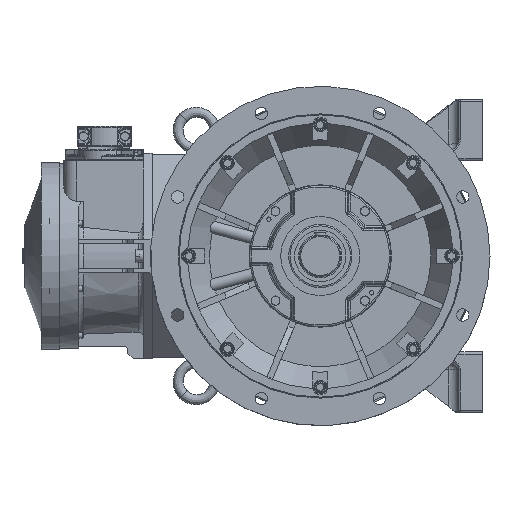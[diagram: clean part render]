
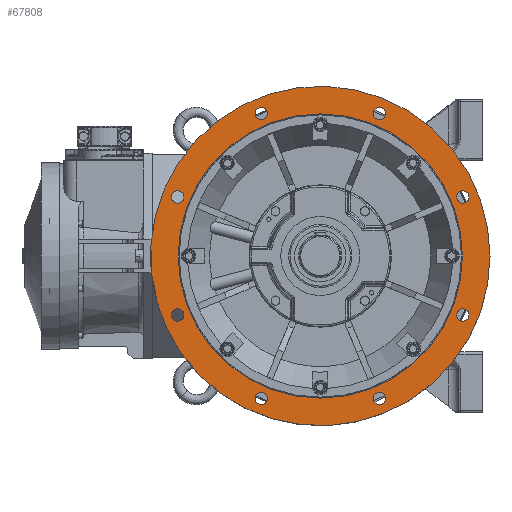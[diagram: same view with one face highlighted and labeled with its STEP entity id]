
A CAD part, left-side view. The second image highlights one B-rep face of the part: STEP entity #67808.
In plain terms, the highlighted planar face has unit normal (-1, 0, 0).
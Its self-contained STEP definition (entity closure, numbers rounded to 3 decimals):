
#20843=ORIENTED_EDGE('',*,*,#28816,.F.);
#20844=ORIENTED_EDGE('',*,*,#28818,.F.);
#20845=ORIENTED_EDGE('',*,*,#28820,.F.);
#20846=ORIENTED_EDGE('',*,*,#28822,.F.);
#20847=ORIENTED_EDGE('',*,*,#28824,.F.);
#20848=ORIENTED_EDGE('',*,*,#28826,.F.);
#20849=ORIENTED_EDGE('',*,*,#28828,.F.);
#20850=ORIENTED_EDGE('',*,*,#28830,.F.);
#20851=ORIENTED_EDGE('',*,*,#28850,.F.);
#20852=ORIENTED_EDGE('',*,*,#28851,.T.);
#28816=EDGE_CURVE('',#33613,#33613,#36247,.T.);
#28818=EDGE_CURVE('',#33615,#33615,#36249,.T.);
#28820=EDGE_CURVE('',#33617,#33617,#36251,.T.);
#28822=EDGE_CURVE('',#33619,#33619,#36253,.T.);
#28824=EDGE_CURVE('',#33621,#33621,#36255,.T.);
#28826=EDGE_CURVE('',#33623,#33623,#36257,.T.);
#28828=EDGE_CURVE('',#33625,#33625,#36259,.T.);
#28830=EDGE_CURVE('',#33627,#33627,#36261,.T.);
#28850=EDGE_CURVE('',#33647,#33647,#36281,.T.);
#28851=EDGE_CURVE('',#33648,#33648,#36282,.F.);
#33613=VERTEX_POINT('',#109469);
#33615=VERTEX_POINT('',#109474);
#33617=VERTEX_POINT('',#109479);
#33619=VERTEX_POINT('',#109484);
#33621=VERTEX_POINT('',#109489);
#33623=VERTEX_POINT('',#109494);
#33625=VERTEX_POINT('',#109499);
#33627=VERTEX_POINT('',#109504);
#33647=VERTEX_POINT('',#109562);
#33648=VERTEX_POINT('',#109564);
#36247=CIRCLE('',#72600,12.);
#36249=CIRCLE('',#72603,12.);
#36251=CIRCLE('',#72606,12.);
#36253=CIRCLE('',#72609,12.);
#36255=CIRCLE('',#72612,12.);
#36257=CIRCLE('',#72615,12.);
#36259=CIRCLE('',#72618,12.);
#36261=CIRCLE('',#72621,12.);
#36281=CIRCLE('',#72659,276.402);
#36282=CIRCLE('',#72660,330.);
#39359=EDGE_LOOP('',(#20843));
#39360=EDGE_LOOP('',(#20844));
#39361=EDGE_LOOP('',(#20845));
#39362=EDGE_LOOP('',(#20846));
#39363=EDGE_LOOP('',(#20847));
#39364=EDGE_LOOP('',(#20848));
#39365=EDGE_LOOP('',(#20849));
#39366=EDGE_LOOP('',(#20850));
#39367=EDGE_LOOP('',(#20851));
#39368=EDGE_LOOP('',(#20852));
#42890=FACE_BOUND('',#39359,.T.);
#42891=FACE_BOUND('',#39360,.T.);
#42892=FACE_BOUND('',#39361,.T.);
#42893=FACE_BOUND('',#39362,.T.);
#42894=FACE_BOUND('',#39363,.T.);
#42895=FACE_BOUND('',#39364,.T.);
#42896=FACE_BOUND('',#39365,.T.);
#42897=FACE_BOUND('',#39366,.T.);
#42898=FACE_BOUND('',#39367,.T.);
#42899=FACE_BOUND('',#39368,.T.);
#44873=PLANE('',#72658);
#67808=ADVANCED_FACE('',(#42890,#42891,#42892,#42893,#42894,#42895,#42896,
#42897,#42898,#42899),#44873,.F.);
#72600=AXIS2_PLACEMENT_3D('',#109468,#84963,#84964);
#72603=AXIS2_PLACEMENT_3D('',#109473,#84969,#84970);
#72606=AXIS2_PLACEMENT_3D('',#109478,#84975,#84976);
#72609=AXIS2_PLACEMENT_3D('',#109483,#84981,#84982);
#72612=AXIS2_PLACEMENT_3D('',#109488,#84987,#84988);
#72615=AXIS2_PLACEMENT_3D('',#109493,#84993,#84994);
#72618=AXIS2_PLACEMENT_3D('',#109498,#84999,#85000);
#72621=AXIS2_PLACEMENT_3D('',#109503,#85005,#85006);
#72658=AXIS2_PLACEMENT_3D('',#109560,#85079,#85080);
#72659=AXIS2_PLACEMENT_3D('',#109561,#85081,#85082);
#72660=AXIS2_PLACEMENT_3D('',#109563,#85083,#85084);
#84963=DIRECTION('',(-1.,0.,0.));
#84964=DIRECTION('',(0.,0.,1.));
#84969=DIRECTION('',(-1.,0.,0.));
#84970=DIRECTION('',(0.,0.,1.));
#84975=DIRECTION('',(-1.,0.,0.));
#84976=DIRECTION('',(0.,0.,1.));
#84981=DIRECTION('',(-1.,0.,0.));
#84982=DIRECTION('',(0.,0.,1.));
#84987=DIRECTION('',(-1.,0.,0.));
#84988=DIRECTION('',(0.,0.,1.));
#84993=DIRECTION('',(-1.,0.,0.));
#84994=DIRECTION('',(0.,0.,1.));
#84999=DIRECTION('',(-1.,0.,0.));
#85000=DIRECTION('',(0.,0.,1.));
#85005=DIRECTION('',(-1.,0.,0.));
#85006=DIRECTION('',(0.,0.,1.));
#85079=DIRECTION('',(1.,0.,0.));
#85080=DIRECTION('',(0.,-1.,0.));
#85081=DIRECTION('',(-1.,0.,0.));
#85082=DIRECTION('',(0.,1.,0.));
#85083=DIRECTION('',(1.,0.,0.));
#85084=DIRECTION('',(0.,-1.,0.));
#109468=CARTESIAN_POINT('',(-89.5,114.805,277.164));
#109469=CARTESIAN_POINT('',(-89.5,114.805,289.164));
#109473=CARTESIAN_POINT('',(-89.5,-114.805,277.164));
#109474=CARTESIAN_POINT('',(-89.5,-114.805,289.164));
#109478=CARTESIAN_POINT('',(-89.5,-277.164,114.805));
#109479=CARTESIAN_POINT('',(-89.5,-277.164,126.805));
#109483=CARTESIAN_POINT('',(-89.5,-277.164,-114.805));
#109484=CARTESIAN_POINT('',(-89.5,-277.164,-102.805));
#109488=CARTESIAN_POINT('',(-89.5,-114.805,-277.164));
#109489=CARTESIAN_POINT('',(-89.5,-114.805,-265.164));
#109493=CARTESIAN_POINT('',(-89.5,114.805,-277.164));
#109494=CARTESIAN_POINT('',(-89.5,114.805,-265.164));
#109498=CARTESIAN_POINT('',(-89.5,277.164,-114.805));
#109499=CARTESIAN_POINT('',(-89.5,277.164,-102.805));
#109503=CARTESIAN_POINT('',(-89.5,277.164,114.805));
#109504=CARTESIAN_POINT('',(-89.5,277.164,126.805));
#109560=CARTESIAN_POINT('',(-89.5,276.402,0.));
#109561=CARTESIAN_POINT('',(-89.5,0.,0.));
#109562=CARTESIAN_POINT('',(-89.5,276.402,0.));
#109563=CARTESIAN_POINT('',(-89.5,0.,0.));
#109564=CARTESIAN_POINT('',(-89.5,-330.,0.));
